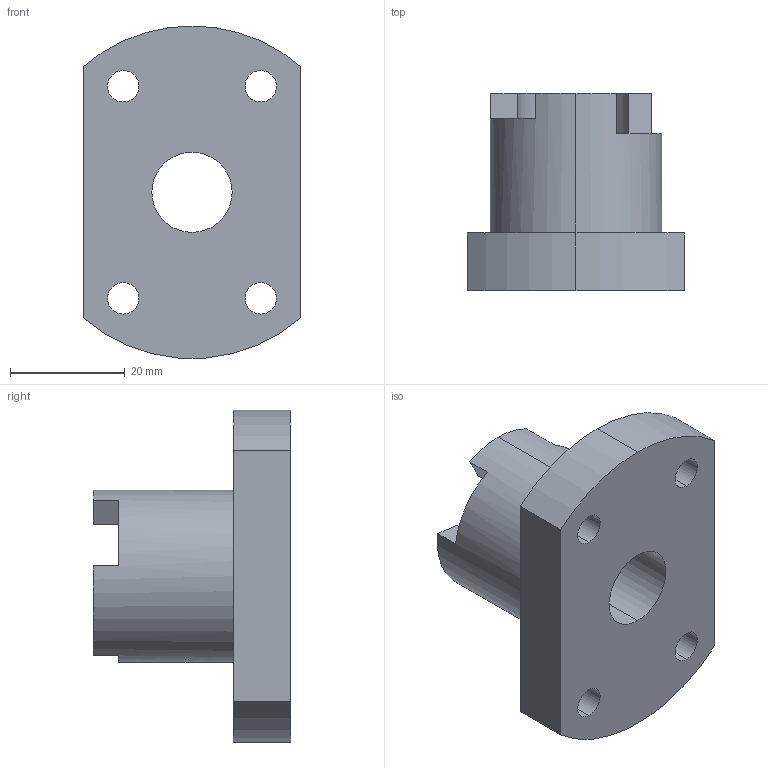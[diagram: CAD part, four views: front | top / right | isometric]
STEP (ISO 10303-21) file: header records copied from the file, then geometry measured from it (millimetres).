
FILE_DESCRIPTION (( 'STEP AP214' ), '1' );
FILE_NAME ('AGZ070.02_V1 O形圈装配底座.STEP', '2021-12-15T05:11:16', ( '微软中国' ), ( 'Microsoft' ), 'SwSTEP 2.0', 'SolidWorks 2018', '' );
FILE_SCHEMA (( 'AUTOMOTIVE_DESIGN' ));
Length unit declared in the file: millimetre
Products named in the file (1): AGZ070.02_V1 O形圈装配底座
Bounding box: 38 x 34.4 x 57.91 mm (x, y, z)
Volume: 27682.8 mm3; surface area: 9903.4 mm2
Topology: 1 solids, 1 shells, 46 faces, 117 edges, 78 vertices
Faces by surface type: cylinder 26, plane 20
Entity records: 1477 total; most frequent: DIRECTION 273, CARTESIAN_POINT 242, ORIENTED_EDGE 234, EDGE_CURVE 117, AXIS2_PLACEMENT_3D 109, VERTEX_POINT 78, CIRCLE 62, EDGE_LOOP 61
